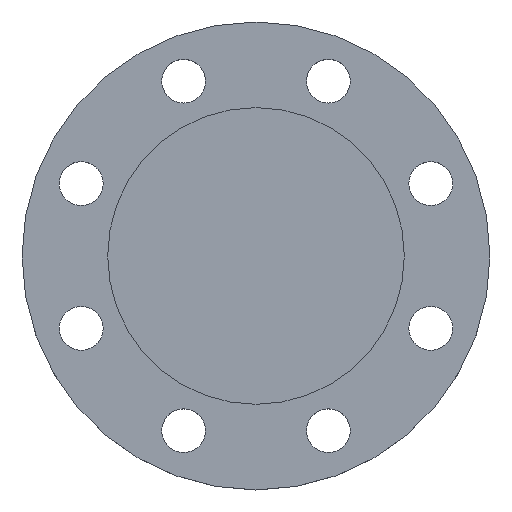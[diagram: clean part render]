
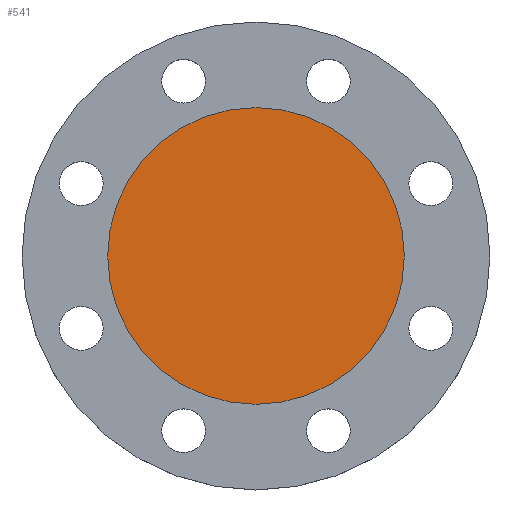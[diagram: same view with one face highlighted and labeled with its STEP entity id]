
A CAD part, top view. The second image highlights one B-rep face of the part: STEP entity #541.
In plain terms, the highlighted planar face has unit normal (0, 0, 1).
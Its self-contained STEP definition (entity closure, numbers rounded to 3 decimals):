
#128 = DIRECTION ( 'NONE',  ( 1., 0., 0. ) ) ;
#129 = DIRECTION ( 'NONE',  ( 0., 0., 1. ) ) ;
#130 = CARTESIAN_POINT ( 'NONE',  ( 0., 0., 0. ) ) ;
#131 = PLANE ( 'NONE',  #754 ) ;
#133 = FACE_OUTER_BOUND ( 'NONE', #551, .T. ) ;
#175 = CARTESIAN_POINT ( 'NONE',  ( 74.5, 0., 0. ) ) ;
#282 = EDGE_CURVE ( 'NONE', #483, #432, #356, .T. ) ;
#298 = AXIS2_PLACEMENT_3D ( 'NONE', #746, #747, #748 ) ;
#325 = CARTESIAN_POINT ( 'NONE',  ( 0., 0., 0. ) ) ;
#333 = CARTESIAN_POINT ( 'NONE',  ( -74.5, 0., 0. ) ) ;
#334 = DIRECTION ( 'NONE',  ( 0., 0., -1. ) ) ;
#337 = DIRECTION ( 'NONE',  ( -1., 0., 0. ) ) ;
#356 = CIRCLE ( 'NONE', #298, 74.5 ) ;
#391 = EDGE_CURVE ( 'NONE', #432, #483, #425, .T. ) ;
#413 = AXIS2_PLACEMENT_3D ( 'NONE', #325, #334, #337 ) ;
#425 = CIRCLE ( 'NONE', #413, 74.5 ) ;
#432 = VERTEX_POINT ( 'NONE', #333 ) ;
#483 = VERTEX_POINT ( 'NONE', #175 ) ;
#541 = ADVANCED_FACE ( 'NONE', ( #133 ), #131, .T. ) ;
#551 = EDGE_LOOP ( 'NONE', ( #565, #568 ) ) ;
#565 = ORIENTED_EDGE ( 'NONE', *, *, #391, .F. ) ;
#568 = ORIENTED_EDGE ( 'NONE', *, *, #282, .F. ) ;
#746 = CARTESIAN_POINT ( 'NONE',  ( 0., 0., 0. ) ) ;
#747 = DIRECTION ( 'NONE',  ( 0., 0., -1. ) ) ;
#748 = DIRECTION ( 'NONE',  ( -1., 0., 0. ) ) ;
#754 = AXIS2_PLACEMENT_3D ( 'NONE', #130, #129, #128 ) ;
